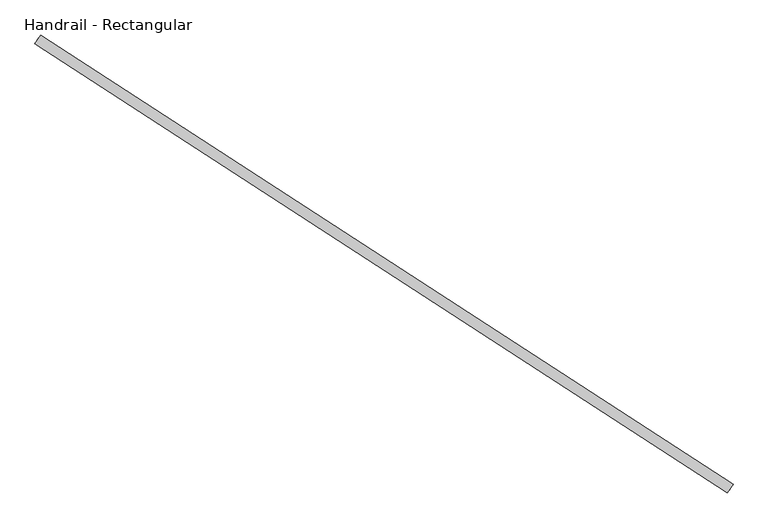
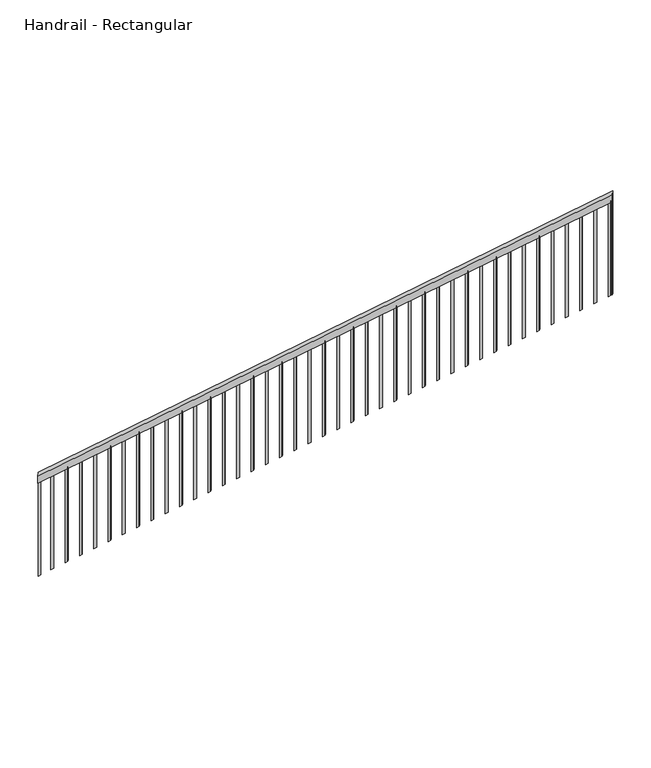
"""IFC4 building model written with IfcOpenShell, lengths in millimetres: railing geometry, Handrail - Rectangular."""

from ifc_helpers import new_model, si_unit, frame, origin, place, context, project, spatial, polyline, outline, extrude, source, transform, mapped, element, save


def handrail_rectangular_6699b723(model_context):
    return source(origin(), model_context, "Body", "SweptSolid", [
        extrude(outline(polyline([(32.1782991, -50.8), (0.0, 0.0), (4834.2931764, 0.0), (4866.4714755, -50.8), (32.1782991, -50.8)])), frame((14563.0283386, -10415.7618119, 854.2661249), z_axis=(0.5446390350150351, 0.8386705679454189, 0.0), x_axis=(0.7084935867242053, -0.4601011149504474, 0.5351110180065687)), (0.0, 0.0, 1.0), 50.8),
        extrude(outline(polyline([(234.6334311, 19.05), (1051.1557314, 19.05), (1039.0888692, 0.0), (222.5665689, 0.0), (234.6334311, 19.05)])), frame((17988.0200085, -12621.0486417, 3657.1300545), z_axis=(0.5446390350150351, 0.8386705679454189, 0.0), x_axis=(0.0, 0.0, -1.0)), (0.0, 0.0, 1.0), 19.05),
        extrude(outline(polyline([(234.6334311, 19.05), (1051.1557314, 19.05), (1039.0888692, 0.0), (222.5665689, 0.0), (234.6334311, 19.05)])), frame((17902.8110788, -12565.7133158, 3592.7734563), z_axis=(0.5446390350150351, 0.8386705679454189, 0.0), x_axis=(0.0, 0.0, -1.0)), (0.0, 0.0, 1.0), 19.05),
        extrude(outline(polyline([(234.633431, 19.05), (1051.1557313, 19.05), (1039.0888692, 0.0), (222.5665689, 0.0), (234.633431, 19.05)])), frame((17817.6021491, -12510.3779898, 3528.416858), z_axis=(0.5446390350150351, 0.8386705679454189, 0.0), x_axis=(0.0, 0.0, -1.0)), (0.0, 0.0, 1.0), 19.05),
        extrude(outline(polyline([(234.6334311, 19.05), (1051.1557314, 19.05), (1039.0888692, 0.0), (222.5665689, 0.0), (234.6334311, 19.05)])), frame((17732.3932194, -12455.0426638, 3464.0602598), z_axis=(0.5446390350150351, 0.8386705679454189, 0.0), x_axis=(0.0, 0.0, -1.0)), (0.0, 0.0, 1.0), 19.05),
        extrude(outline(polyline([(234.6334311, 19.05), (1051.1557314, 19.05), (1039.0888693, 0.0), (222.566569, 0.0), (234.6334311, 19.05)])), frame((17647.1842897, -12399.7073379, 3399.7036616), z_axis=(0.5446390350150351, 0.8386705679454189, 0.0), x_axis=(0.0, 0.0, -1.0)), (0.0, 0.0, 1.0), 19.05),
        extrude(outline(polyline([(234.6334311, 19.05), (1051.1557314, 19.05), (1039.0888692, 0.0), (222.5665689, 0.0), (234.6334311, 19.05)])), frame((17561.97536, -12344.3720119, 3335.3470633), z_axis=(0.5446390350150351, 0.8386705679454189, 0.0), x_axis=(0.0, 0.0, -1.0)), (0.0, 0.0, 1.0), 19.05),
        extrude(outline(polyline([(234.6334311, 19.05), (1051.1557314, 19.05), (1039.0888692, 0.0), (222.5665689, 0.0), (234.6334311, 19.05)])), frame((17476.7664303, -12289.036686, 3270.9904651), z_axis=(0.5446390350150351, 0.8386705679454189, 0.0), x_axis=(0.0, 0.0, -1.0)), (0.0, 0.0, 1.0), 19.05),
        extrude(outline(polyline([(234.633431, 19.05), (1051.1557313, 19.05), (1039.0888692, 0.0), (222.5665689, 0.0), (234.633431, 19.05)])), frame((17391.5575006, -12233.70136, 3206.6338668), z_axis=(0.5446390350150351, 0.8386705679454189, 0.0), x_axis=(0.0, 0.0, -1.0)), (0.0, 0.0, 1.0), 19.05),
        extrude(outline(polyline([(234.6334311, 19.05), (1051.1557314, 19.05), (1039.0888692, 0.0), (222.5665689, 0.0), (234.6334311, 19.05)])), frame((17306.3485709, -12178.3660341, 3142.2772686), z_axis=(0.5446390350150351, 0.8386705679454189, 0.0), x_axis=(0.0, 0.0, -1.0)), (0.0, 0.0, 1.0), 19.05),
        extrude(outline(polyline([(234.6334311, 19.05), (1051.1557314, 19.05), (1039.0888693, 0.0), (222.566569, 0.0), (234.6334311, 19.05)])), frame((17221.1396412, -12123.0307081, 3077.9206704), z_axis=(0.5446390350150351, 0.8386705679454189, 0.0), x_axis=(0.0, 0.0, -1.0)), (0.0, 0.0, 1.0), 19.05),
        extrude(outline(polyline([(234.6334311, 19.05), (1051.1557314, 19.05), (1039.0888692, 0.0), (222.5665689, 0.0), (234.6334311, 19.05)])), frame((17135.9307115, -12067.6953821, 3013.5640721), z_axis=(0.5446390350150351, 0.8386705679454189, 0.0), x_axis=(0.0, 0.0, -1.0)), (0.0, 0.0, 1.0), 19.05),
        extrude(outline(polyline([(234.6334311, 19.05), (1051.1557314, 19.05), (1039.0888692, 0.0), (222.5665689, 0.0), (234.6334311, 19.05)])), frame((17050.7217818, -12012.3600562, 2949.2074739), z_axis=(0.5446390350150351, 0.8386705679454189, 0.0), x_axis=(0.0, 0.0, -1.0)), (0.0, 0.0, 1.0), 19.05),
        extrude(outline(polyline([(234.633431, 19.05), (1051.1557313, 19.05), (1039.0888692, 0.0), (222.5665689, 0.0), (234.633431, 19.05)])), frame((16965.5128521, -11957.0247302, 2884.8508756), z_axis=(0.5446390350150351, 0.8386705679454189, 0.0), x_axis=(0.0, 0.0, -1.0)), (0.0, 0.0, 1.0), 19.05),
        extrude(outline(polyline([(234.6334311, 19.05), (1051.1557314, 19.05), (1039.0888692, 0.0), (222.5665689, 0.0), (234.6334311, 19.05)])), frame((16880.3039224, -11901.6894043, 2820.4942774), z_axis=(0.5446390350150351, 0.8386705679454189, 0.0), x_axis=(0.0, 0.0, -1.0)), (0.0, 0.0, 1.0), 19.05),
        extrude(outline(polyline([(234.6334311, 19.05), (1051.1557314, 19.05), (1039.0888693, 0.0), (222.566569, 0.0), (234.6334311, 19.05)])), frame((16795.0949927, -11846.3540783, 2756.1376792), z_axis=(0.5446390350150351, 0.8386705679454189, 0.0), x_axis=(0.0, 0.0, -1.0)), (0.0, 0.0, 1.0), 19.05),
        extrude(outline(polyline([(234.6334311, 19.05), (1051.1557314, 19.05), (1039.0888692, 0.0), (222.5665689, 0.0), (234.6334311, 19.05)])), frame((16709.886063, -11791.0187524, 2691.7810809), z_axis=(0.5446390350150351, 0.8386705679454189, 0.0), x_axis=(0.0, 0.0, -1.0)), (0.0, 0.0, 1.0), 19.05),
        extrude(outline(polyline([(234.6334311, 19.05), (1051.1557314, 19.05), (1039.0888692, 0.0), (222.5665689, 0.0), (234.6334311, 19.05)])), frame((16624.6771333, -11735.6834264, 2627.4244827), z_axis=(0.5446390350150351, 0.8386705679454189, 0.0), x_axis=(0.0, 0.0, -1.0)), (0.0, 0.0, 1.0), 19.05),
        extrude(outline(polyline([(234.6334311, 19.05), (1051.1557314, 19.05), (1039.0888692, 0.0), (222.5665689, 0.0), (234.6334311, 19.05)])), frame((16539.4682036, -11680.3481004, 2563.0678844), z_axis=(0.5446390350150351, 0.8386705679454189, 0.0), x_axis=(0.0, 0.0, -1.0)), (0.0, 0.0, 1.0), 19.05),
        extrude(outline(polyline([(234.6334311, 19.05), (1051.1557314, 19.05), (1039.0888692, 0.0), (222.5665689, 0.0), (234.6334311, 19.05)])), frame((16454.2592739, -11625.0127745, 2498.7112862), z_axis=(0.5446390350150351, 0.8386705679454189, 0.0), x_axis=(0.0, 0.0, -1.0)), (0.0, 0.0, 1.0), 19.05),
        extrude(outline(polyline([(234.6334311, 19.05), (1051.1557314, 19.05), (1039.0888693, 0.0), (222.566569, 0.0), (234.6334311, 19.05)])), frame((16369.0503442, -11569.6774485, 2434.354688), z_axis=(0.5446390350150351, 0.8386705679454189, 0.0), x_axis=(0.0, 0.0, -1.0)), (0.0, 0.0, 1.0), 19.05),
        extrude(outline(polyline([(234.6334311, 19.05), (1051.1557314, 19.05), (1039.0888692, 0.0), (222.5665689, 0.0), (234.6334311, 19.05)])), frame((16283.8414145, -11514.3421226, 2369.9980897), z_axis=(0.5446390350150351, 0.8386705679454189, 0.0), x_axis=(0.0, 0.0, -1.0)), (0.0, 0.0, 1.0), 19.05),
        extrude(outline(polyline([(234.6334311, 19.0500001), (1051.1557314, 19.0500001), (1039.0888692, 0.0), (222.5665689, 0.0), (234.6334311, 19.0500001)])), frame((16198.6324848, -11459.0067966, 2305.6414915), z_axis=(0.5446390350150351, 0.8386705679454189, 0.0), x_axis=(0.0, 0.0, -1.0)), (0.0, 0.0, 1.0), 19.05),
        extrude(outline(polyline([(234.6334311, 19.0500001), (1051.1557314, 19.0500001), (1039.0888692, 0.0), (222.5665689, 0.0), (234.6334311, 19.0500001)])), frame((16113.4235551, -11403.6714707, 2241.2848932), z_axis=(0.5446390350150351, 0.8386705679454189, 0.0), x_axis=(0.0, 0.0, -1.0)), (0.0, 0.0, 1.0), 19.05),
        extrude(outline(polyline([(234.6334311, 19.0500001), (1051.1557314, 19.0500001), (1039.0888692, 0.0), (222.5665689, 0.0), (234.6334311, 19.0500001)])), frame((16028.2146254, -11348.3361447, 2176.928295), z_axis=(0.5446390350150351, 0.8386705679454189, 0.0), x_axis=(0.0, 0.0, -1.0)), (0.0, 0.0, 1.0), 19.05),
        extrude(outline(polyline([(234.633431, 19.0500001), (1051.1557313, 19.0500001), (1039.0888692, 0.0), (222.5665689, 0.0), (234.633431, 19.0500001)])), frame((15943.0056957, -11293.0008187, 2112.5716967), z_axis=(0.5446390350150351, 0.8386705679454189, 0.0), x_axis=(0.0, 0.0, -1.0)), (0.0, 0.0, 1.0), 19.05),
        extrude(outline(polyline([(234.6334311, 19.0500001), (1051.1557314, 19.0500001), (1039.0888692, 0.0), (222.5665689, 0.0), (234.6334311, 19.0500001)])), frame((15857.796766, -11237.6654928, 2048.2150985), z_axis=(0.5446390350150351, 0.8386705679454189, 0.0), x_axis=(0.0, 0.0, -1.0)), (0.0, 0.0, 1.0), 19.05),
        extrude(outline(polyline([(234.6334311, 19.0500001), (1051.1557314, 19.0500001), (1039.0888692, 0.0), (222.5665689, 0.0), (234.6334311, 19.0500001)])), frame((15772.5878363, -11182.3301668, 1983.8585003), z_axis=(0.5446390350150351, 0.8386705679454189, 0.0), x_axis=(0.0, 0.0, -1.0)), (0.0, 0.0, 1.0), 19.05),
        extrude(outline(polyline([(234.6334311, 19.05), (1051.1557314, 19.05), (1039.0888692, 0.0), (222.5665689, 0.0), (234.6334311, 19.05)])), frame((15687.3789065, -11126.9948409, 1919.501902), z_axis=(0.5446390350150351, 0.8386705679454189, 0.0), x_axis=(0.0, 0.0, -1.0)), (0.0, 0.0, 1.0), 19.05),
        extrude(outline(polyline([(234.6334311, 19.05), (1051.1557314, 19.05), (1039.0888692, 0.0), (222.5665689, 0.0), (234.6334311, 19.05)])), frame((15602.1699768, -11071.6595149, 1855.1453038), z_axis=(0.5446390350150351, 0.8386705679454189, 0.0), x_axis=(0.0, 0.0, -1.0)), (0.0, 0.0, 1.0), 19.05),
        extrude(outline(polyline([(234.633431, 19.05), (1051.1557313, 19.05), (1039.0888692, 0.0), (222.5665689, 0.0), (234.633431, 19.05)])), frame((15516.9610471, -11016.324189, 1790.7887055), z_axis=(0.5446390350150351, 0.8386705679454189, 0.0), x_axis=(0.0, 0.0, -1.0)), (0.0, 0.0, 1.0), 19.05),
        extrude(outline(polyline([(234.6334311, 19.05), (1051.1557314, 19.05), (1039.0888692, 0.0), (222.5665689, 0.0), (234.6334311, 19.05)])), frame((15431.7521174, -10960.988863, 1726.4321073), z_axis=(0.5446390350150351, 0.8386705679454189, 0.0), x_axis=(0.0, 0.0, -1.0)), (0.0, 0.0, 1.0), 19.05),
        extrude(outline(polyline([(234.6334311, 19.05), (1051.1557314, 19.05), (1039.0888692, 0.0), (222.5665689, 0.0), (234.6334311, 19.05)])), frame((15346.5431877, -10905.653537, 1662.0755091), z_axis=(0.5446390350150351, 0.8386705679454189, 0.0), x_axis=(0.0, 0.0, -1.0)), (0.0, 0.0, 1.0), 19.05),
        extrude(outline(polyline([(234.6334311, 19.05), (1051.1557314, 19.05), (1039.0888692, 0.0), (222.5665689, 0.0), (234.6334311, 19.05)])), frame((15261.334258, -10850.3182111, 1597.7189108), z_axis=(0.5446390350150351, 0.8386705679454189, 0.0), x_axis=(0.0, 0.0, -1.0)), (0.0, 0.0, 1.0), 19.05),
        extrude(outline(polyline([(234.6334311, 19.05), (1051.1557314, 19.05), (1039.0888692, 0.0), (222.5665689, 0.0), (234.6334311, 19.05)])), frame((15176.1253283, -10794.9828851, 1533.3623126), z_axis=(0.5446390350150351, 0.8386705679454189, 0.0), x_axis=(0.0, 0.0, -1.0)), (0.0, 0.0, 1.0), 19.05),
        extrude(outline(polyline([(234.633431, 19.05), (1051.1557313, 19.05), (1039.0888692, 0.0), (222.5665689, 0.0), (234.633431, 19.05)])), frame((15090.9163986, -10739.6475592, 1469.0057143), z_axis=(0.5446390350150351, 0.8386705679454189, 0.0), x_axis=(0.0, 0.0, -1.0)), (0.0, 0.0, 1.0), 19.05),
        extrude(outline(polyline([(234.6334311, 19.05), (1051.1557314, 19.05), (1039.0888692, 0.0), (222.5665689, 0.0), (234.6334311, 19.05)])), frame((15005.7074689, -10684.3122332, 1404.6491161), z_axis=(0.5446390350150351, 0.8386705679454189, 0.0), x_axis=(0.0, 0.0, -1.0)), (0.0, 0.0, 1.0), 19.05),
        extrude(outline(polyline([(234.6334311, 19.05), (1051.1557314, 19.05), (1039.0888693, 0.0), (222.566569, 0.0), (234.6334311, 19.05)])), frame((14920.4985392, -10628.9769072, 1340.2925179), z_axis=(0.5446390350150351, 0.8386705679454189, 0.0), x_axis=(0.0, 0.0, -1.0)), (0.0, 0.0, 1.0), 19.05),
        extrude(outline(polyline([(234.6334311, 19.05), (1051.1557314, 19.05), (1039.0888692, 0.0), (222.5665689, 0.0), (234.6334311, 19.05)])), frame((14835.2896095, -10573.6415813, 1275.9359196), z_axis=(0.5446390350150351, 0.8386705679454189, 0.0), x_axis=(0.0, 0.0, -1.0)), (0.0, 0.0, 1.0), 19.05),
        extrude(outline(polyline([(234.6334311, 19.05), (1051.1557314, 19.05), (1039.0888692, 0.0), (222.5665689, 0.0), (234.6334311, 19.05)])), frame((14750.0806798, -10518.3062553, 1211.5793214), z_axis=(0.5446390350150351, 0.8386705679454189, 0.0), x_axis=(0.0, 0.0, -1.0)), (0.0, 0.0, 1.0), 19.05),
        extrude(outline(polyline([(234.633431, 19.05), (1051.1557313, 19.05), (1039.0888692, 0.0), (222.5665689, 0.0), (234.633431, 19.05)])), frame((14664.8717501, -10462.9709294, 1147.2227231), z_axis=(0.5446390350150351, 0.8386705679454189, 0.0), x_axis=(0.0, 0.0, -1.0)), (0.0, 0.0, 1.0), 19.05),
        extrude(outline(polyline([(234.6334311, 19.05), (1051.1557314, 19.05), (1039.0888692, 0.0), (222.5665689, 0.0), (234.6334311, 19.05)])), frame((17996.7401951, -12626.7115971, 3663.7162368), z_axis=(0.5446390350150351, 0.8386705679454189, 0.0), x_axis=(0.0, 0.0, -1.0)), (0.0, 0.0, 1.0), 19.05),
        extrude(outline(polyline([(234.6334311, 19.0500001), (1051.1557314, 19.0500001), (1039.0888692, 0.0), (222.5665689, 0.0), (234.6334311, 19.0500001)])), frame((14587.6511576, -10412.8232902, 1088.899556), z_axis=(0.5446390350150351, 0.8386705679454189, 0.0), x_axis=(0.0, 0.0, -1.0)), (0.0, 0.0, 1.0), 19.05),
    ])


if __name__ == "__main__":
    model = new_model("IFC4")
    model_context = context("Model", 3, world=origin())
    ifc_project = project(units=[si_unit("LENGTHUNIT", "METRE", prefix="MILLI")], contexts=[model_context])
    site = spatial("IfcSite", under=ifc_project)
    building = spatial("IfcBuilding", under=site)
    placement = place(None, origin())
    handrail_rectangular_shape = handrail_rectangular_6699b723(model_context)
    element("IfcRailing", 1, ObjectType="Handrail - Rectangular", at=placement, inside=building, context=model_context, shape_type="MappedRepresentation", body=[
        mapped(handrail_rectangular_shape, transform((0.0, 0.0, 0.0), x_axis=(1.0, 0.0, 0.0), y_axis=(0.0, 1.0, 0.0), z_axis=(0.0, 0.0, 1.0))),
    ])
    save(model, "model.ifc")
